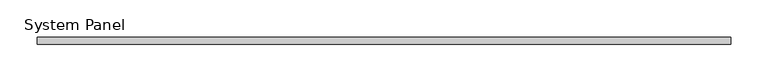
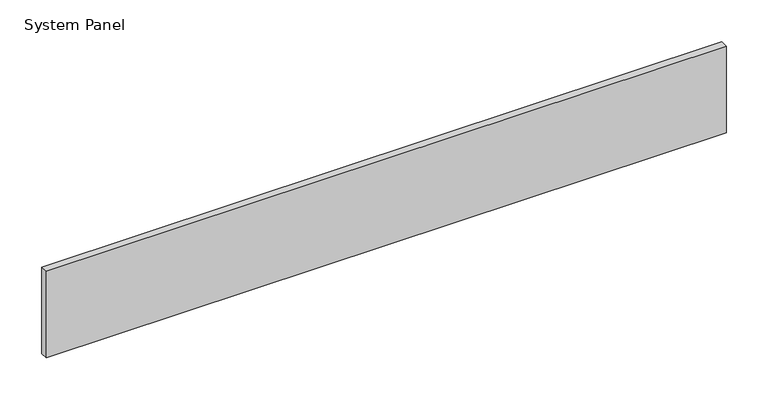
"""IFC4 building model written with IfcOpenShell, lengths in millimetres: plate geometry, System Panel : VACÍO."""

from ifc_helpers import new_model, si_unit, origin, origin_with_axes, place, context, project, spatial, polyline, outline, extrude, source, transform, mapped, element, save


def system_panel_948e591e(model_context):
    return source(origin(), model_context, "Body", "SweptSolid", [
        extrude(outline(polyline([(468.0929082, -5.0), (-468.0929082, -5.0), (-468.0929082, 5.0), (468.0929082, 5.0), (468.0929082, -5.0)])), origin_with_axes(), (0.0, 0.0, 1.0), 126.0),
    ])


if __name__ == "__main__":
    model = new_model("IFC4")
    model_context = context("Model", 3, world=origin())
    ifc_project = project(units=[si_unit("LENGTHUNIT", "METRE", prefix="MILLI")], contexts=[model_context])
    site = spatial("IfcSite", under=ifc_project)
    building = spatial("IfcBuilding", under=site)
    placement = place(None, origin())
    system_panel_shape = system_panel_948e591e(model_context)
    element("IfcPlate", 1, ObjectType="System Panel : VACÍO", at=placement, inside=building, context=model_context, shape_type="MappedRepresentation", body=[
        mapped(system_panel_shape, transform((0.0, 0.0, 0.0), x_axis=(1.0, 0.0, 0.0), y_axis=(0.0, 1.0, 0.0), z_axis=(0.0, 0.0, 1.0))),
    ])
    save(model, "model.ifc")
